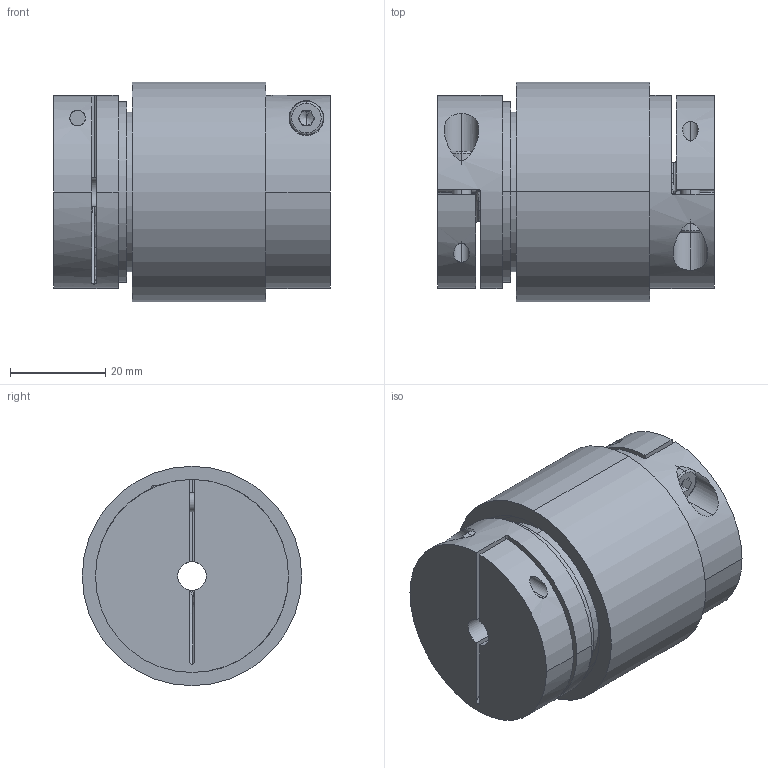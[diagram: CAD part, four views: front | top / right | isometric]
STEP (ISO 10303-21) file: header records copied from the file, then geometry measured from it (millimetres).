
FILE_DESCRIPTION (( 'STEP AP203' ), '1' );
FILE_NAME ('PMK-10.STEP', '2022-08-22T14:59:28', ( '' ), ( '' ), 'SwSTEP 2.0', 'SolidWorks 2019', '' );
FILE_SCHEMA (( 'CONFIG_CONTROL_DESIGN' ));
Length unit declared in the file: millimetre
Products named in the file (5): MGK-BNK 10-2G_011.00000648.100_Kunde; PMK-10; PMK-ARO 10_011.00000444.300_Kunde; socket head cap screw 4762_din_EN ISO 4762 M4 x 12 - 12N; PMK-IRO 10_011.00000443.300_Kunde
Assembly tree (6 placements, depth 2):
  PMK-10
    MGK-BNK 10-2G_011.00000648.100_Kunde  x2
    PMK-IRO 10_011.00000443.300_Kunde
    PMK-ARO 10_011.00000444.300_Kunde
    socket head cap screw 4762_din_EN ISO 4762 M4 x 12 - 12N  x2
Bounding box: 58 x 46 x 46 mm (x, y, z)
Volume: 65308.1 mm3; surface area: 30484.9 mm2
Topology: 6 solids, 6 shells, 146 faces, 338 edges, 212 vertices
Faces by surface type: plane 60, cylinder 58, torus 20, cone 8
Entity records: 3325 total; most frequent: CARTESIAN_POINT 633, DIRECTION 490, ORIENTED_EDGE 406, AXIS2_PLACEMENT_3D 205, EDGE_CURVE 203, VERTEX_POINT 130, EDGE_LOOP 111, CIRCLE 105
